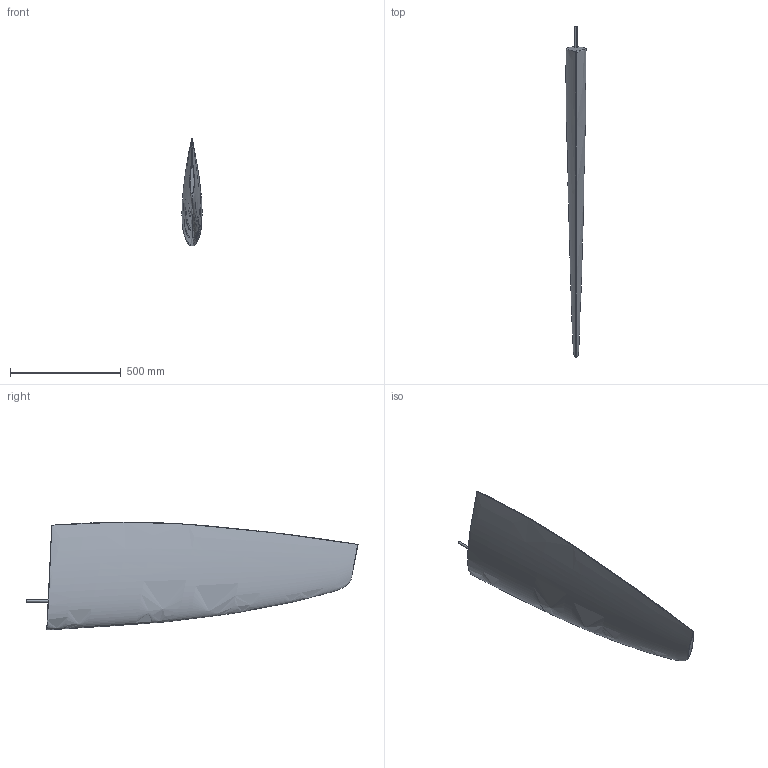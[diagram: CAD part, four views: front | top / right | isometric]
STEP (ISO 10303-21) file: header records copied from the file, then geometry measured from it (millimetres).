
FILE_DESCRIPTION (( 'STEP AP203' ), '1' );
FILE_NAME ('Rudderblade RUD30 for 26 to 34ft.STEP', '2008-09-04T11:33:22', ( 'Klaus Jeppsen' ), ( 'Jefa' ), 'SwSTEP 2.0', 'SolidWorks 2008', '' );
FILE_SCHEMA (( 'CONFIG_CONTROL_DESIGN' ));
Length unit declared in the file: millimetre
Products named in the file (1): Rudderblade RUD30 for 26 to 34ft
Bounding box: 90.78 x 1499.34 x 487.16 mm (x, y, z)
Volume: 26112630 mm3; surface area: 1143181.9 mm2
Topology: 1 solids, 1 shells, 12 faces, 27 edges, 17 vertices
Faces by surface type: bspline 6, plane 4, cylinder 2
Entity records: 5856 total; most frequent: CARTESIAN_POINT 5570, ORIENTED_EDGE 54, EDGE_CURVE 27, DIRECTION 23, B_SPLINE_CURVE_WITH_KNOTS 18, VERTEX_POINT 17, EDGE_LOOP 12, ADVANCED_FACE 12
